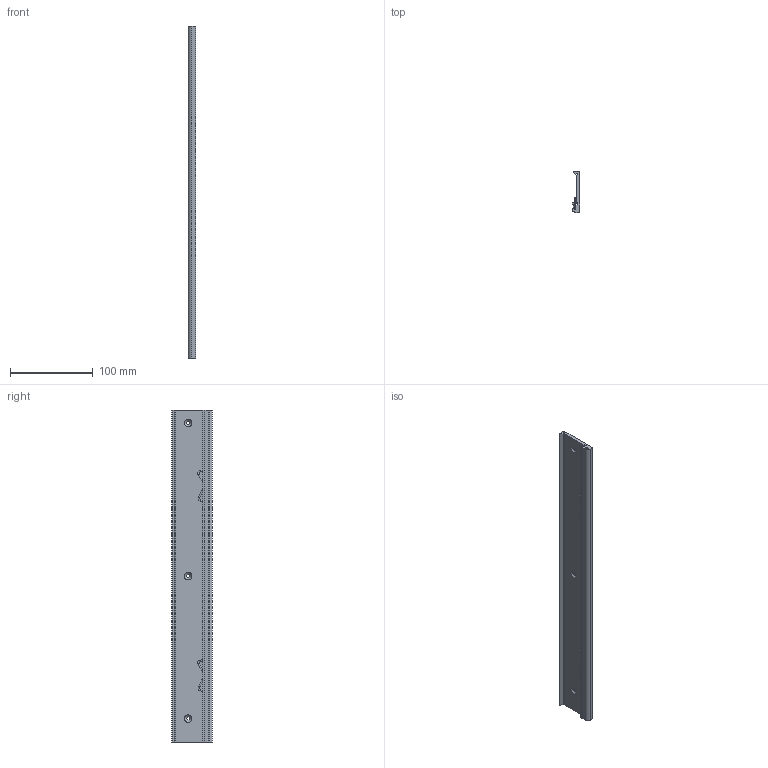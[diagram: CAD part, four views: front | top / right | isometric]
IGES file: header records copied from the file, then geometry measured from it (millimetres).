
Start section:  PTC IGES file: cu_din_crio-908x_cdaq-913x.igs
Global section: file name: cu_din_crio-908x_cdaq-913x.igs; native system: Creo Parametric by Parametric Technology Corporation; preprocessor: 2014000; author: jbuhisan; organization: Unknown; date: 20141106.112125; units: inch
Bounding box: 8.97 x 49.33 x 400.01 mm (x, y, z)
Surface area: 59011.2 mm2 (no closed solid volume)
Topology: 0 solids, 0 shells, 84 faces, 404 edges, 404 vertices
Faces by surface type: revolution 59, bspline 25
